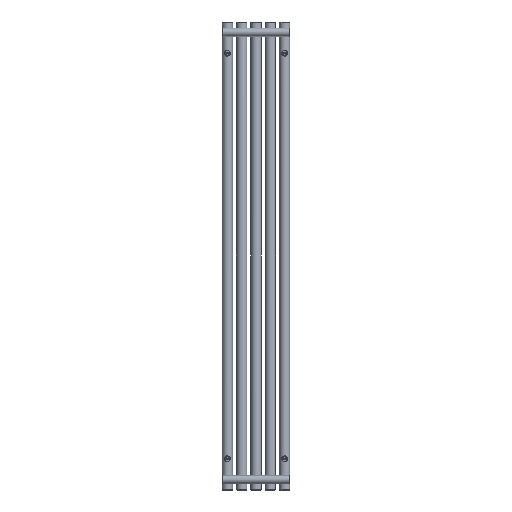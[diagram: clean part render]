
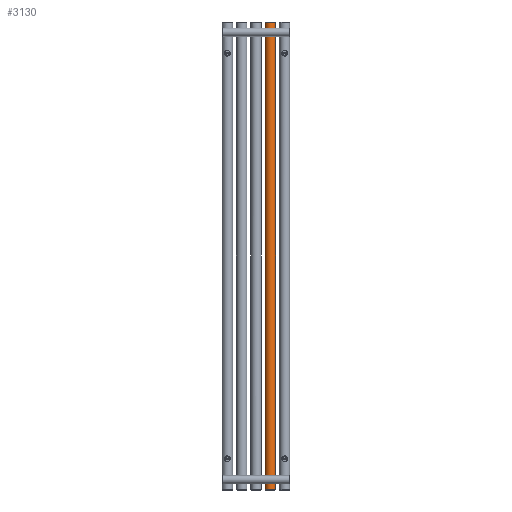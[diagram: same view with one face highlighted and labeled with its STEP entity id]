
A CAD part, front view. The second image highlights one B-rep face of the part: STEP entity #3130.
In plain terms, the highlighted cylindrical face has radius 20 mm (diameter 40 mm), a full revolution.
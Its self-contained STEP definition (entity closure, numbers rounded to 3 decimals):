
#215=FACE_BOUND('',#711,.T.);
#216=FACE_BOUND('',#712,.T.);
#217=FACE_BOUND('',#713,.T.);
#257=LINE('',#6014,#352);
#352=VECTOR('',#3906,20.);
#447=CYLINDRICAL_SURFACE('',#3385,20.);
#498=FACE_OUTER_BOUND('',#710,.T.);
#710=EDGE_LOOP('',(#2182,#2183,#2184,#2185,#2186));
#711=EDGE_LOOP('',(#2187));
#712=EDGE_LOOP('',(#2188));
#713=EDGE_LOOP('',(#2189));
#952=B_SPLINE_CURVE_WITH_KNOTS('',3,(#5990,#5991,#5992,#5993,#5994,#5995,
#5996,#5997,#5998,#5999,#6000,#6001,#6002,#6003,#6004,#6005,#6006,#6007,
#6008),.UNSPECIFIED.,.T.,.F.,(4,1,1,1,1,1,1,1,1,1,1,1,1,1,1,1,4),(-5.132,
-4.765,-4.399,-3.91,-3.666,
-3.421,-3.177,-2.933,-2.444,
-2.199,-1.955,-1.711,-1.466,
-1.1,-0.733,-0.367,0.),
 .UNSPECIFIED.);
#953=B_SPLINE_CURVE_WITH_KNOTS('',3,(#6018,#6019,#6020,#6021,#6022,#6023,
#6024,#6025,#6026,#6027,#6028,#6029,#6030,#6031,#6032,#6033,#6034,#6035,
#6036,#6037,#6038,#6039,#6040,#6041,#6042),.UNSPECIFIED.,.T.,.F.,(4,1,1,
1,1,1,1,1,1,1,1,1,1,1,1,1,1,1,1,1,1,1,4),(-5.132,-4.765,
-4.399,-4.154,-3.91,-3.666,
-3.421,-3.177,-2.933,-2.688,
-2.444,-2.322,-2.199,-1.955,
-1.466,-1.1,-0.916,-0.825,
-0.779,-0.756,-0.733,-0.367,
0.),.UNSPECIFIED.);
#954=B_SPLINE_CURVE_WITH_KNOTS('',3,(#6044,#6045,#6046,#6047,#6048,#6049,
#6050,#6051,#6052,#6053,#6054,#6055,#6056,#6057,#6058,#6059,#6060,#6061,
#6062,#6063),.UNSPECIFIED.,.T.,.F.,(4,1,1,1,1,1,1,1,1,1,1,1,1,1,1,1,1,4),
(-6.15,-5.711,-5.272,-4.686,
-4.393,-4.32,-4.247,-4.1,
-3.514,-3.222,-2.929,-2.636,
-2.05,-1.757,-1.318,-0.879,
-0.439,0.),.UNSPECIFIED.);
#1023=CIRCLE('',#3386,20.);
#1024=CIRCLE('',#3387,20.);
#1025=CIRCLE('',#3388,20.);
#1330=VERTEX_POINT('',#5988);
#1331=VERTEX_POINT('',#6010);
#1332=VERTEX_POINT('',#6011);
#1333=VERTEX_POINT('',#6013);
#1334=VERTEX_POINT('',#6017);
#1335=VERTEX_POINT('',#6043);
#1678=EDGE_CURVE('',#1330,#1330,#952,.T.);
#1679=EDGE_CURVE('',#1331,#1332,#1023,.T.);
#1680=EDGE_CURVE('',#1331,#1333,#257,.T.);
#1681=EDGE_CURVE('',#1333,#1333,#1024,.T.);
#1682=EDGE_CURVE('',#1332,#1331,#1025,.T.);
#1683=EDGE_CURVE('',#1334,#1334,#953,.T.);
#1684=EDGE_CURVE('',#1335,#1335,#954,.T.);
#2182=ORIENTED_EDGE('',*,*,#1679,.F.);
#2183=ORIENTED_EDGE('',*,*,#1680,.T.);
#2184=ORIENTED_EDGE('',*,*,#1681,.F.);
#2185=ORIENTED_EDGE('',*,*,#1680,.F.);
#2186=ORIENTED_EDGE('',*,*,#1682,.F.);
#2187=ORIENTED_EDGE('',*,*,#1683,.F.);
#2188=ORIENTED_EDGE('',*,*,#1684,.F.);
#2189=ORIENTED_EDGE('',*,*,#1678,.F.);
#3130=ADVANCED_FACE('',(#498,#215,#216,#217),#447,.T.);
#3385=AXIS2_PLACEMENT_3D('',#6009,#3902,#3903);
#3386=AXIS2_PLACEMENT_3D('',#6012,#3904,#3905);
#3387=AXIS2_PLACEMENT_3D('',#6015,#3907,#3908);
#3388=AXIS2_PLACEMENT_3D('',#6016,#3909,#3910);
#3902=DIRECTION('center_axis',(0.,0.,1.));
#3903=DIRECTION('ref_axis',(-1.,0.,0.));
#3904=DIRECTION('center_axis',(0.,0.,1.));
#3905=DIRECTION('ref_axis',(-1.,0.,0.));
#3906=DIRECTION('',(0.,0.,-1.));
#3907=DIRECTION('center_axis',(0.,0.,-1.));
#3908=DIRECTION('ref_axis',(-1.,0.,0.));
#3909=DIRECTION('center_axis',(0.,0.,1.));
#3910=DIRECTION('ref_axis',(-1.,0.,0.));
#5988=CARTESIAN_POINT('',(-55.,-20.,50.1));
#5990=CARTESIAN_POINT('Ctrl Pts',(-55.,-20.,50.1));
#5991=CARTESIAN_POINT('Ctrl Pts',(-56.611,-20.,50.1));
#5992=CARTESIAN_POINT('Ctrl Pts',(-59.83,-19.61,49.58));
#5993=CARTESIAN_POINT('Ctrl Pts',(-64.319,-17.858,46.75));
#5994=CARTESIAN_POINT('Ctrl Pts',(-66.21,-16.549,41.99));
#5995=CARTESIAN_POINT('Ctrl Pts',(-65.866,-16.799,37.471));
#5996=CARTESIAN_POINT('Ctrl Pts',(-64.65,-17.552,34.432));
#5997=CARTESIAN_POINT('Ctrl Pts',(-62.534,-18.591,32.08));
#5998=CARTESIAN_POINT('Ctrl Pts',(-58.836,-19.82,30.088));
#5999=CARTESIAN_POINT('Ctrl Pts',(-54.418,-20.203,29.641));
#6000=CARTESIAN_POINT('Ctrl Pts',(-50.239,-19.503,30.58));
#6001=CARTESIAN_POINT('Ctrl Pts',(-47.466,-18.592,32.084));
#6002=CARTESIAN_POINT('Ctrl Pts',(-45.351,-17.554,34.428));
#6003=CARTESIAN_POINT('Ctrl Pts',(-43.927,-16.661,37.981));
#6004=CARTESIAN_POINT('Ctrl Pts',(-43.922,-16.659,42.598));
#6005=CARTESIAN_POINT('Ctrl Pts',(-46.137,-18.052,47.027));
#6006=CARTESIAN_POINT('Ctrl Pts',(-50.165,-19.6,49.585));
#6007=CARTESIAN_POINT('Ctrl Pts',(-53.389,-20.,50.1));
#6008=CARTESIAN_POINT('Ctrl Pts',(-55.,-20.,50.1));
#6009=CARTESIAN_POINT('Origin',(-55.,0.,0.));
#6010=CARTESIAN_POINT('',(-35.,0.,1798.));
#6011=CARTESIAN_POINT('',(-75.,0.,1798.));
#6012=CARTESIAN_POINT('Origin',(-55.,0.,1798.));
#6013=CARTESIAN_POINT('',(-35.,0.,2.));
#6014=CARTESIAN_POINT('',(-35.,0.,0.));
#6015=CARTESIAN_POINT('Origin',(-55.,0.,2.));
#6016=CARTESIAN_POINT('Origin',(-55.,0.,1798.));
#6017=CARTESIAN_POINT('',(-55.,-20.,1770.1));
#6018=CARTESIAN_POINT('Ctrl Pts',(-55.,-20.,1770.1));
#6019=CARTESIAN_POINT('Ctrl Pts',(-56.611,-20.,1770.1));
#6020=CARTESIAN_POINT('Ctrl Pts',(-59.838,-19.598,1769.588));
#6021=CARTESIAN_POINT('Ctrl Pts',(-63.412,-18.224,1767.307));
#6022=CARTESIAN_POINT('Ctrl Pts',(-65.38,-17.114,1764.116));
#6023=CARTESIAN_POINT('Ctrl Pts',(-66.115,-16.625,1760.853));
#6024=CARTESIAN_POINT('Ctrl Pts',(-65.87,-16.793,1757.475));
#6025=CARTESIAN_POINT('Ctrl Pts',(-64.649,-17.553,1754.429));
#6026=CARTESIAN_POINT('Ctrl Pts',(-62.534,-18.591,1752.084));
#6027=CARTESIAN_POINT('Ctrl Pts',(-59.761,-19.507,1750.583));
#6028=CARTESIAN_POINT('Ctrl Pts',(-56.624,-20.021,1749.87));
#6029=CARTESIAN_POINT('Ctrl Pts',(-53.917,-20.022,1749.871));
#6030=CARTESIAN_POINT('Ctrl Pts',(-51.806,-19.764,1750.226));
#6031=CARTESIAN_POINT('Ctrl Pts',(-49.778,-19.355,1750.836));
#6032=CARTESIAN_POINT('Ctrl Pts',(-46.524,-18.281,1752.559));
#6033=CARTESIAN_POINT('Ctrl Pts',(-43.908,-16.656,1756.803));
#6034=CARTESIAN_POINT('Ctrl Pts',(-43.931,-16.663,1761.738));
#6035=CARTESIAN_POINT('Ctrl Pts',(-44.887,-17.265,1764.433));
#6036=CARTESIAN_POINT('Ctrl Pts',(-45.595,-17.654,1765.634));
#6037=CARTESIAN_POINT('Ctrl Pts',(-46.001,-17.862,1766.19));
#6038=CARTESIAN_POINT('Ctrl Pts',(-46.248,-17.984,1766.495));
#6039=CARTESIAN_POINT('Ctrl Pts',(-47.399,-18.537,1767.826));
#6040=CARTESIAN_POINT('Ctrl Pts',(-50.162,-19.595,1769.586));
#6041=CARTESIAN_POINT('Ctrl Pts',(-53.389,-20.,1770.1));
#6042=CARTESIAN_POINT('Ctrl Pts',(-55.,-20.,1770.1));
#6043=CARTESIAN_POINT('',(-65.476,17.037,1600.));
#6044=CARTESIAN_POINT('Ctrl Pts',(-65.476,17.037,1600.));
#6045=CARTESIAN_POINT('Ctrl Pts',(-65.476,17.037,1601.678));
#6046=CARTESIAN_POINT('Ctrl Pts',(-64.71,17.528,1605.001));
#6047=CARTESIAN_POINT('Ctrl Pts',(-61.469,19.119,1609.277));
#6048=CARTESIAN_POINT('Ctrl Pts',(-56.91,20.127,1611.233));
#6049=CARTESIAN_POINT('Ctrl Pts',(-53.388,19.971,1610.943));
#6050=CARTESIAN_POINT('Ctrl Pts',(-51.861,19.759,1610.505));
#6051=CARTESIAN_POINT('Ctrl Pts',(-50.87,19.582,1610.135));
#6052=CARTESIAN_POINT('Ctrl Pts',(-48.287,18.971,1608.808));
#6053=CARTESIAN_POINT('Ctrl Pts',(-45.767,17.791,1605.96));
#6054=CARTESIAN_POINT('Ctrl Pts',(-44.484,17.016,1601.705));
#6055=CARTESIAN_POINT('Ctrl Pts',(-44.483,17.014,1598.292));
#6056=CARTESIAN_POINT('Ctrl Pts',(-45.768,17.796,1594.038));
#6057=CARTESIAN_POINT('Ctrl Pts',(-48.647,19.134,1590.784));
#6058=CARTESIAN_POINT('Ctrl Pts',(-53.071,20.044,1588.907));
#6059=CARTESIAN_POINT('Ctrl Pts',(-57.481,20.04,1588.913));
#6060=CARTESIAN_POINT('Ctrl Pts',(-61.783,18.95,1591.159));
#6061=CARTESIAN_POINT('Ctrl Pts',(-64.716,17.532,1594.996));
#6062=CARTESIAN_POINT('Ctrl Pts',(-65.476,17.037,1598.322));
#6063=CARTESIAN_POINT('Ctrl Pts',(-65.476,17.037,1600.));
